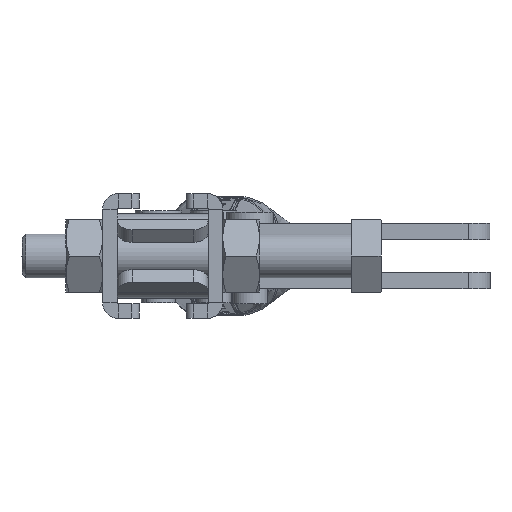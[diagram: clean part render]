
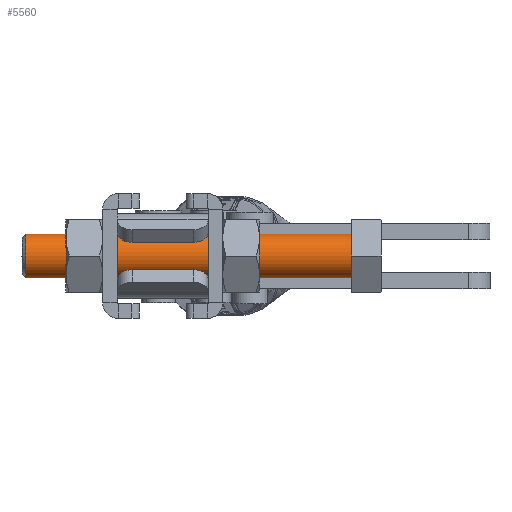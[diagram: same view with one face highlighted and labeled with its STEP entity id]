
A CAD part, left-side view. The second image highlights one B-rep face of the part: STEP entity #5560.
In plain terms, the highlighted cylindrical face has radius 3 mm (diameter 6 mm), a partial arc.
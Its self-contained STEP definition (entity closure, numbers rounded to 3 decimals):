
#768 = ORIENTED_EDGE ( 'NONE', *, *, #4303, .T. ) ;
#1305 = VERTEX_POINT ( 'NONE', #26390 ) ;
#1772 = EDGE_CURVE ( 'NONE', #32298, #1305, #20259, .T. ) ;
#1818 = AXIS2_PLACEMENT_3D ( 'NONE', #24235, #32286, #13630 ) ;
#2112 = CYLINDRICAL_SURFACE ( 'NONE', #1818, 3. ) ;
#3179 = CARTESIAN_POINT ( 'NONE',  ( 0., -44.5, -3. ) ) ;
#4303 = EDGE_CURVE ( 'NONE', #24263, #15163, #24260, .T. ) ;
#5211 = EDGE_CURVE ( 'NONE', #15163, #1305, #11331, .T. ) ;
#5560 = ADVANCED_FACE ( 'NONE', ( #16268 ), #2112, .T. ) ;
#6604 = CARTESIAN_POINT ( 'NONE',  ( 0., 0., 0. ) ) ;
#6854 = CARTESIAN_POINT ( 'NONE',  ( 0., -45., -3. ) ) ;
#9296 = DIRECTION ( 'NONE',  ( 0., 0., 1. ) ) ;
#9333 = DIRECTION ( 'NONE',  ( 0., 1., 0. ) ) ;
#9475 = AXIS2_PLACEMENT_3D ( 'NONE', #25255, #9333, #27978 ) ;
#11304 = CARTESIAN_POINT ( 'NONE',  ( 0., -44.5, 3. ) ) ;
#11331 = CIRCLE ( 'NONE', #27667, 3. ) ;
#13146 = ORIENTED_EDGE ( 'NONE', *, *, #1772, .F. ) ;
#13630 = DIRECTION ( 'NONE',  ( 0., 0., 1. ) ) ;
#15163 = VERTEX_POINT ( 'NONE', #23745 ) ;
#16268 = FACE_OUTER_BOUND ( 'NONE', #22462, .T. ) ;
#16785 = ORIENTED_EDGE ( 'NONE', *, *, #5211, .T. ) ;
#17011 = CARTESIAN_POINT ( 'NONE',  ( 0., -45., 3. ) ) ;
#17183 = VECTOR ( 'NONE', #19690, 1000. ) ;
#19690 = DIRECTION ( 'NONE',  ( 0., 1., 0. ) ) ;
#20259 = LINE ( 'NONE', #6854, #22782 ) ;
#22462 = EDGE_LOOP ( 'NONE', ( #13146, #32060, #768, #16785 ) ) ;
#22782 = VECTOR ( 'NONE', #30857, 1000. ) ;
#23745 = CARTESIAN_POINT ( 'NONE',  ( 0., 0., 3. ) ) ;
#24235 = CARTESIAN_POINT ( 'NONE',  ( 0., -45., 0. ) ) ;
#24260 = LINE ( 'NONE', #17011, #17183 ) ;
#24263 = VERTEX_POINT ( 'NONE', #11304 ) ;
#24349 = EDGE_CURVE ( 'NONE', #32298, #24263, #33925, .T. ) ;
#25218 = DIRECTION ( 'NONE',  ( 0., -1., 0. ) ) ;
#25255 = CARTESIAN_POINT ( 'NONE',  ( 0., -44.5, 0. ) ) ;
#26390 = CARTESIAN_POINT ( 'NONE',  ( 0., 0., -3. ) ) ;
#27667 = AXIS2_PLACEMENT_3D ( 'NONE', #6604, #25218, #9296 ) ;
#27978 = DIRECTION ( 'NONE',  ( 0., 0., -1. ) ) ;
#30857 = DIRECTION ( 'NONE',  ( 0., 1., 0. ) ) ;
#32060 = ORIENTED_EDGE ( 'NONE', *, *, #24349, .T. ) ;
#32286 = DIRECTION ( 'NONE',  ( 0., 1., 0. ) ) ;
#32298 = VERTEX_POINT ( 'NONE', #3179 ) ;
#33925 = CIRCLE ( 'NONE', #9475, 3. ) ;
